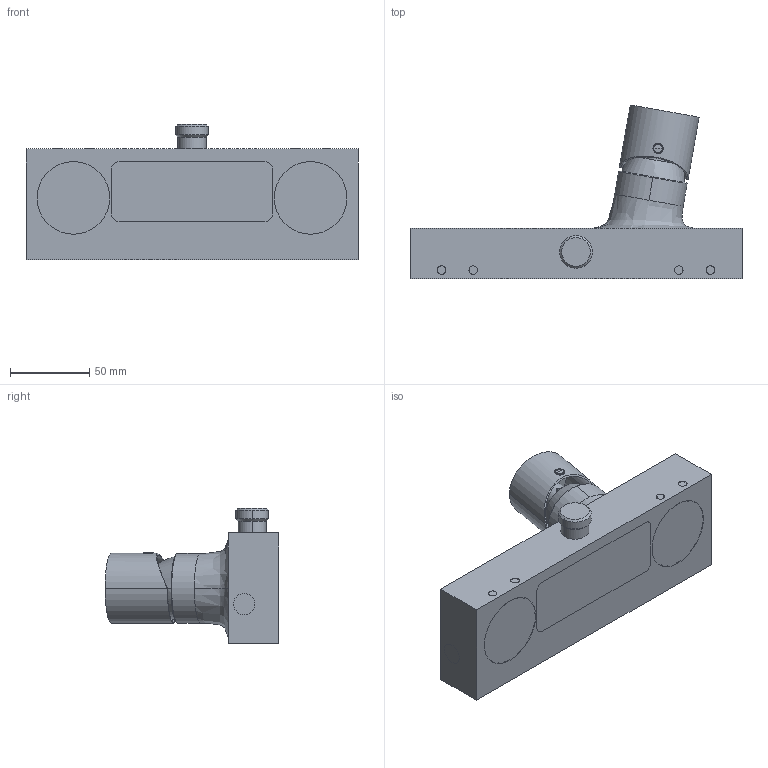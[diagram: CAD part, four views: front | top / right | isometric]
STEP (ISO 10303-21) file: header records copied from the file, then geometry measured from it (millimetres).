
FILE_DESCRIPTION((''),'2;1');
FILE_NAME('F3855_FILE_3D','2015-09-29T',('ivanv'),(''),'PRO/ENGINEER BY PARAMETRIC TECHNOLOGY CORPORATION, 2012130','PRO/ENGINEER BY PARAMETRIC TECHNOLOGY CORPORATION, 2012130','');
FILE_SCHEMA(('CONFIG_CONTROL_DESIGN'));
Length unit declared in the file: millimetre
Products named in the file (1): F3855_FILE_3D
Bounding box: 210 x 109.99 x 85.5 mm (x, y, z)
Volume: 411982.5 mm3; surface area: 105471.1 mm2
Topology: 2 solids, 2 shells, 323 faces, 842 edges, 511 vertices
Faces by surface type: cylinder 119, cone 96, plane 86, torus 10, bspline 10, sphere 2
Entity records: 16895 total; most frequent: CARTESIAN_POINT 9208, ORIENTED_EDGE 1620, DIRECTION 1575, EDGE_CURVE 810, AXIS2_PLACEMENT_3D 624, VERTEX_POINT 511, EDGE_LOOP 359, VECTOR 327
